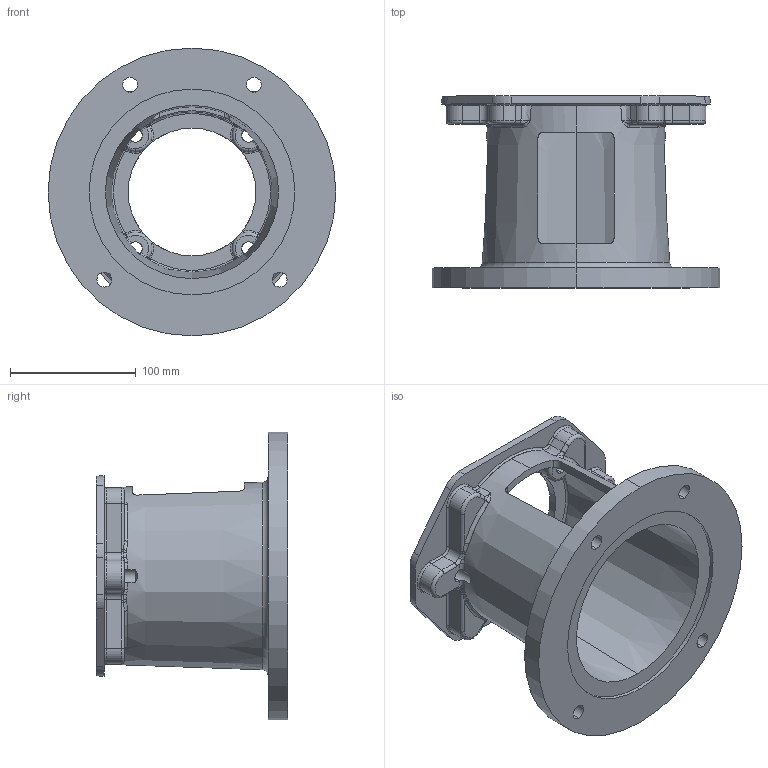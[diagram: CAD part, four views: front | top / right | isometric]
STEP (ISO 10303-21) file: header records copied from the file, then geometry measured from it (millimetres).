
FILE_DESCRIPTION (( 'STEP AP203' ), '1' );
FILE_NAME ('E644602B.STEP', '2014-11-03T18:51:53', ( '' ), ( '' ), 'SwSTEP 2.0', 'SolidWorks 2014', '' );
FILE_SCHEMA (( 'CONFIG_CONTROL_DESIGN' ));
Length unit declared in the file: inch
Products named in the file (1): E644602B
Bounding box: 228.6 x 152.4 x 228.6 mm (x, y, z)
Volume: 917891.4 mm3; surface area: 222853.2 mm2
Topology: 1 solids, 1 shells, 304 faces, 800 edges, 473 vertices
Faces by surface type: torus 87, cylinder 74, bspline 64, plane 43, cone 20, sphere 16
Entity records: 12231 total; most frequent: CARTESIAN_POINT 5110, ORIENTED_EDGE 1560, DIRECTION 1466, EDGE_CURVE 780, AXIS2_PLACEMENT_3D 661, VERTEX_POINT 473, CIRCLE 420, EDGE_LOOP 323
